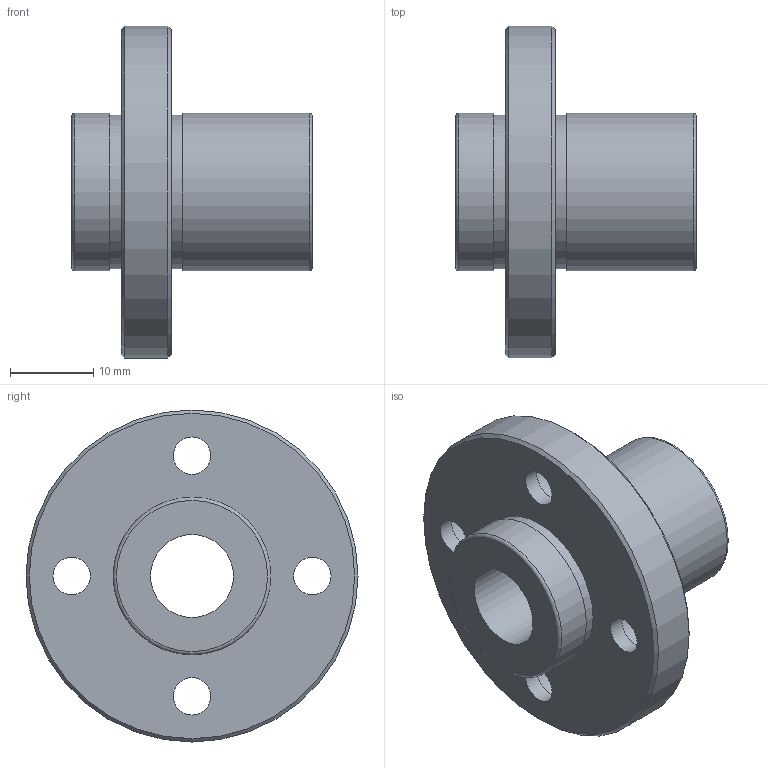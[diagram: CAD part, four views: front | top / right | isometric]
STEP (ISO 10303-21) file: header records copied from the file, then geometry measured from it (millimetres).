
FILE_DESCRIPTION(('STEP AP203'),'1');
FILE_NAME('//192.168.1.1/share/s-4 技術開発/s-4-4_CAD/s-4-4-3_見直し済み/002 修正済み/NFID-V/NFID-V_TOP/NFID-10VUU.step','2022-03-08T02:19:42',(' '),(' '),'Spatial InterOp 3D',' ',' ');
FILE_SCHEMA(('CONFIG_CONTROL_DESIGN'));
Length unit declared in the file: millimetre
Products named in the file (1): 1
Bounding box: 29 x 40 x 40 mm (x, y, z)
Volume: 10872.7 mm3; surface area: 5735.3 mm2
Topology: 1 solids, 1 shells, 28 faces, 58 edges, 40 vertices
Faces by surface type: cylinder 14, plane 10, torus 2, cone 2
Full cylindrical faces by diameter (mm): 4.5 x4, 7.5 x4, 10 x1, 18.5 x2, 19 x2, 40 x1
Entity records: 668 total; most frequent: DIRECTION 122, CARTESIAN_POINT 93, EDGE_LOOP 64, ORIENTED_EDGE 64, AXIS2_PLACEMENT_3D 61, FACE_OUTER_BOUND 44, EDGE_CURVE 32, VERTEX_POINT 32
